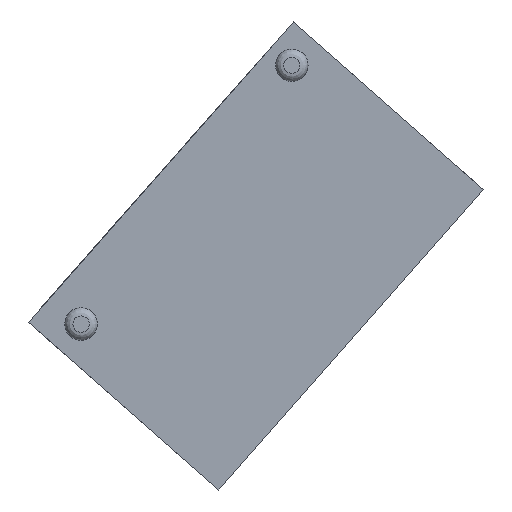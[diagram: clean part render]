
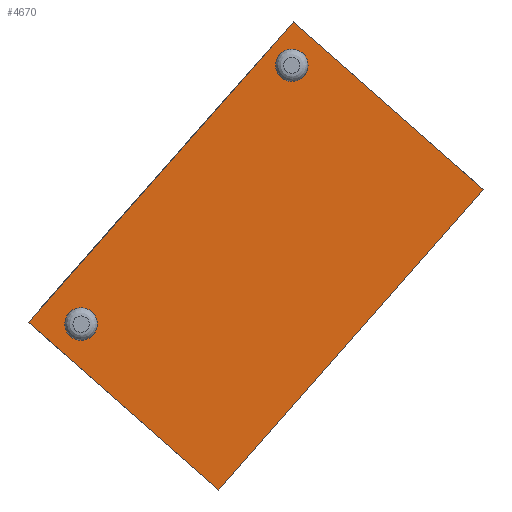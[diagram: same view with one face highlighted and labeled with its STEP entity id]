
A CAD part, left-side view. The second image highlights one B-rep face of the part: STEP entity #4670.
In plain terms, the highlighted planar face has unit normal (-1, 0, 0).
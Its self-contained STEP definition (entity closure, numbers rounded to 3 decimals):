
#395=FACE_BOUND('',#1034,.T.);
#396=FACE_BOUND('',#1035,.T.);
#475=PLANE('',#5307);
#738=FACE_OUTER_BOUND('',#1033,.T.);
#1033=EDGE_LOOP('',(#4031,#4032,#4033,#4034));
#1034=EDGE_LOOP('',(#4035));
#1035=EDGE_LOOP('',(#4036));
#1342=LINE('',#11410,#1604);
#1343=LINE('',#11412,#1605);
#1344=LINE('',#11414,#1606);
#1345=LINE('',#11415,#1607);
#1604=VECTOR('',#6497,10.);
#1605=VECTOR('',#6498,10.);
#1606=VECTOR('',#6499,10.);
#1607=VECTOR('',#6500,10.);
#1749=CIRCLE('',#5258,5.137);
#1752=CIRCLE('',#5263,5.137);
#2185=VERTEX_POINT('',#11165);
#2188=VERTEX_POINT('',#11175);
#2244=VERTEX_POINT('',#11408);
#2245=VERTEX_POINT('',#11409);
#2246=VERTEX_POINT('',#11411);
#2247=VERTEX_POINT('',#11413);
#2785=EDGE_CURVE('',#2185,#2185,#1749,.T.);
#2790=EDGE_CURVE('',#2188,#2188,#1752,.T.);
#2863=EDGE_CURVE('',#2244,#2245,#1342,.T.);
#2864=EDGE_CURVE('',#2245,#2246,#1343,.T.);
#2865=EDGE_CURVE('',#2246,#2247,#1344,.T.);
#2866=EDGE_CURVE('',#2247,#2244,#1345,.T.);
#4031=ORIENTED_EDGE('',*,*,#2863,.T.);
#4032=ORIENTED_EDGE('',*,*,#2864,.T.);
#4033=ORIENTED_EDGE('',*,*,#2865,.T.);
#4034=ORIENTED_EDGE('',*,*,#2866,.T.);
#4035=ORIENTED_EDGE('',*,*,#2785,.T.);
#4036=ORIENTED_EDGE('',*,*,#2790,.T.);
#4670=ADVANCED_FACE('',(#738,#395,#396),#475,.T.);
#5258=AXIS2_PLACEMENT_3D('',#11166,#6359,#6360);
#5263=AXIS2_PLACEMENT_3D('',#11176,#6371,#6372);
#5307=AXIS2_PLACEMENT_3D('',#11407,#6495,#6496);
#6359=DIRECTION('center_axis',(1.,0.,0.));
#6360=DIRECTION('ref_axis',(0.,-1.,0.));
#6371=DIRECTION('center_axis',(1.,0.,0.));
#6372=DIRECTION('ref_axis',(0.,-1.,0.));
#6495=DIRECTION('center_axis',(-1.,0.,0.));
#6496=DIRECTION('ref_axis',(0.,0.,1.));
#6497=DIRECTION('',(0.,-0.75,-0.661));
#6498=DIRECTION('',(0.,-0.661,0.75));
#6499=DIRECTION('',(0.,0.75,0.661));
#6500=DIRECTION('',(0.,0.661,-0.75));
#11165=CARTESIAN_POINT('',(-40.225,134.263,-22.151));
#11166=CARTESIAN_POINT('Origin',(-40.225,129.126,-22.151));
#11175=CARTESIAN_POINT('',(-40.225,4.678,136.963));
#11176=CARTESIAN_POINT('Origin',(-40.225,-0.459,136.963));
#11407=CARTESIAN_POINT('Origin',(-40.225,21.555,19.699));
#11408=CARTESIAN_POINT('',(-40.225,161.436,-20.999));
#11409=CARTESIAN_POINT('',(-40.225,44.371,-124.185));
#11410=CARTESIAN_POINT('',(-40.225,161.436,-20.999));
#11411=CARTESIAN_POINT('',(-40.225,-118.326,60.397));
#11412=CARTESIAN_POINT('',(-40.225,44.371,-124.185));
#11413=CARTESIAN_POINT('',(-40.225,-1.261,163.583));
#11414=CARTESIAN_POINT('',(-40.225,-118.326,60.397));
#11415=CARTESIAN_POINT('',(-40.225,-1.261,163.583));
